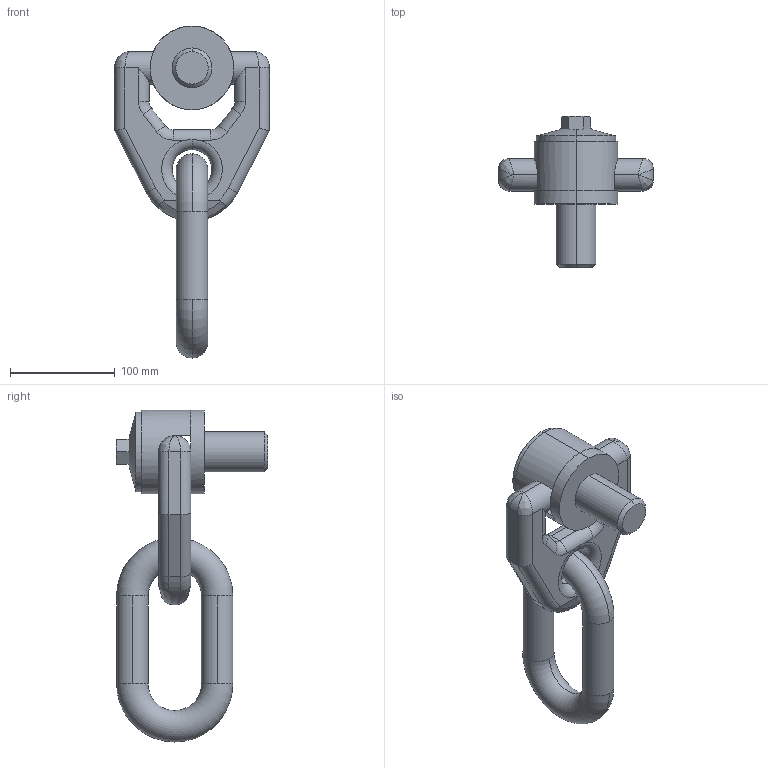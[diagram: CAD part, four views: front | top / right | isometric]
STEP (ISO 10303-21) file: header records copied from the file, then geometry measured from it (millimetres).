
FILE_DESCRIPTION (( 'STEP AP203' ), '1' );
FILE_NAME ('63150.W0350.step', '2013-12-13T11:56:23', ( 'User' ), ( '' ), 'SwSTEP 2.0', 'SolidWorks 2009', '' );
FILE_SCHEMA (( 'CONFIG_CONTROL_DESIGN' ));
Length unit declared in the file: millimetre
Products named in the file (4): 63150.W0350; Part1_63150.W0350; Part2D; Part3_63150.W0350
Assembly tree (3 placements, depth 2):
  63150.W0350
    Part3_63150.W0350
    Part1_63150.W0350
    Part2D
Bounding box: 148 x 145 x 317 mm (x, y, z)
Volume: 1031789.1 mm3; surface area: 127765.2 mm2
Topology: 3 solids, 3 shells, 120 faces, 298 edges, 182 vertices
Faces by surface type: cylinder 44, plane 34, torus 24, cone 10, bspline 8
Entity records: 5344 total; most frequent: CARTESIAN_POINT 2090, DIRECTION 622, ORIENTED_EDGE 596, EDGE_CURVE 298, AXIS2_PLACEMENT_3D 250, VERTEX_POINT 182, CIRCLE 132, EDGE_LOOP 124
